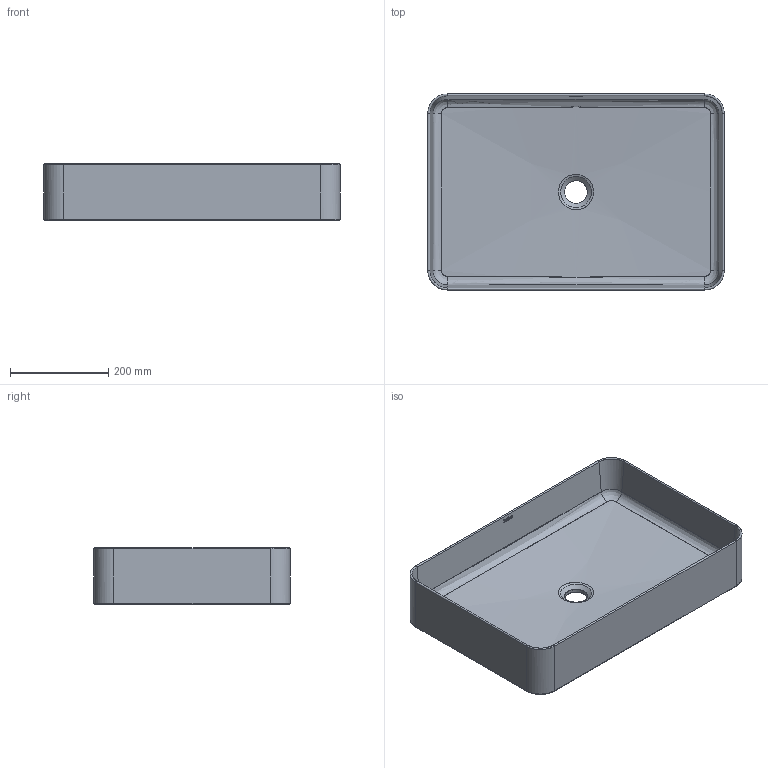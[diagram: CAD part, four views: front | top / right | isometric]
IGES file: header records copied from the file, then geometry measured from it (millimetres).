
Global section: file name: C:\Users\User\Desktop\4090 Nilo\4090_Nilo_3D.igs; native system: Rhinoceros ( Jan 23 2018 ); preprocessor: Trout Lake IGES 012 Jan 23 2018; date: 210311.134857; units: millimetre
Bounding box: 605 x 400 x 115 mm (x, y, z)
Surface area: 866496.4 mm2 (no closed solid volume)
Topology: 0 solids, 0 shells, 143 faces, 1009 edges, 994 vertices
Faces by surface type: bspline 143
